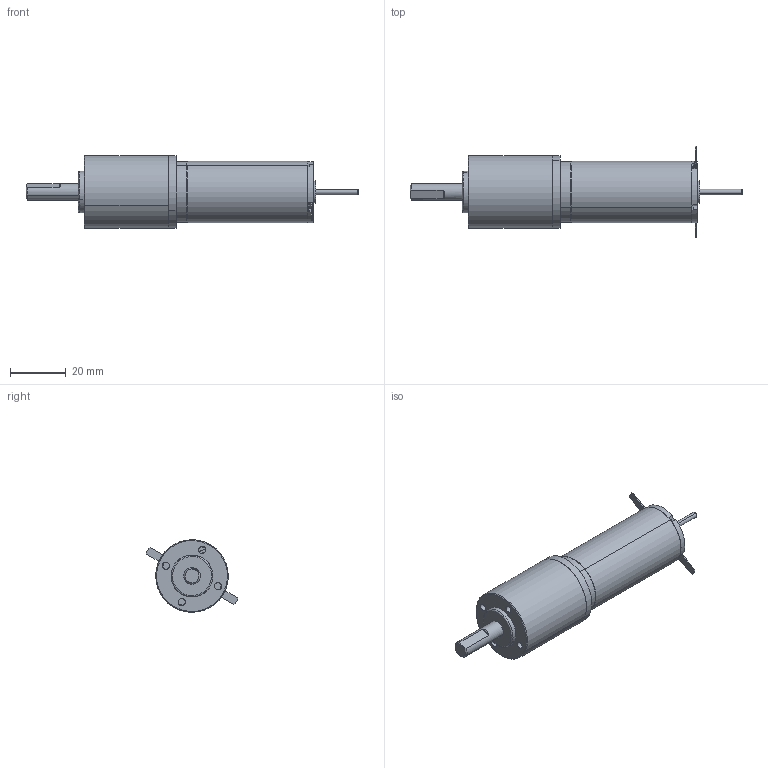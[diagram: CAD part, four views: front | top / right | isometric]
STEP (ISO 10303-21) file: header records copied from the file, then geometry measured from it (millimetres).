
FILE_DESCRIPTION (( 'STEP AP214' ), '1' );
FILE_NAME ('DCX22LG + GP26A-2 étages.STEP', '2014-10-15T08:06:12', ( '' ), ( '' ), 'SwSTEP 2.0', 'SolidWorks 2013', '' );
FILE_SCHEMA (( 'AUTOMOTIVE_DESIGN' ));
Length unit declared in the file: millimetre
Products named in the file (19): 13; 11; 10; 5; 8; 12; 1005018; GP26A-2st; DCX22LG + GP26A-2 étages; DCX22LG; 4; 6; 7; 1228536; 14; 1; 3; 2; 9
Assembly tree (18 placements, depth 3):
  DCX22LG + GP26A-2 étages
    GP26A-2st
    1005018
    DCX22LG
      12
      8
      5
      10
      11
      13
      9
      2
      3
      1
      14
      1228536
      7
      6
      4
Bounding box: 119.05 x 32.86 x 26 mm (x, y, z)
Volume: 25245.5 mm3; surface area: 16978.2 mm2
Topology: 17 solids, 17 shells, 887 faces, 2142 edges, 1337 vertices
Faces by surface type: cylinder 337, plane 267, cone 198, bspline 85
Entity records: 39141 total; most frequent: CARTESIAN_POINT 8341, DIRECTION 4670, ORIENTED_EDGE 4280, EDGE_CURVE 2140, AXIS2_PLACEMENT_3D 1817, VERTEX_POINT 1337, VECTOR 1036, LINE 1036
